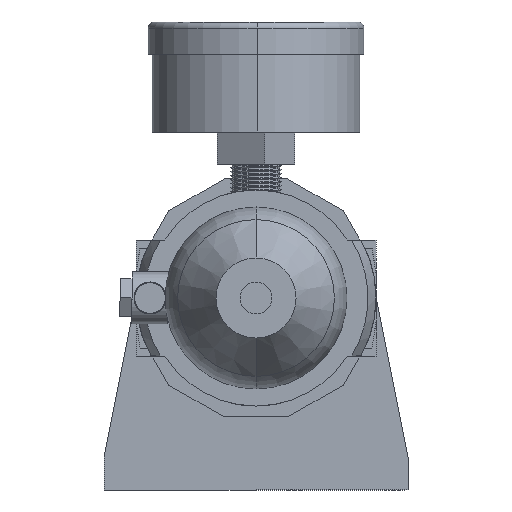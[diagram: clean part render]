
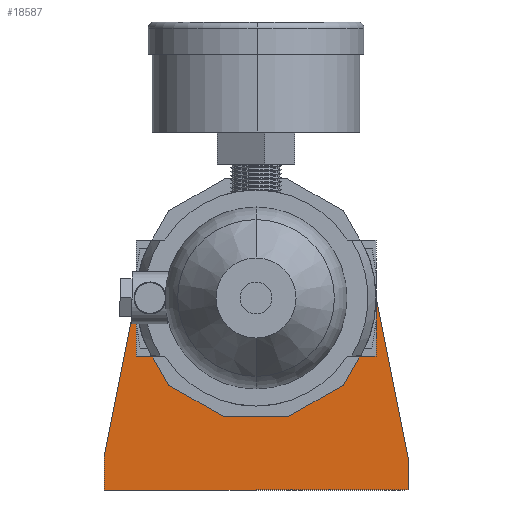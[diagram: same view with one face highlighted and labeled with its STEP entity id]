
A CAD part, front view. The second image highlights one B-rep face of the part: STEP entity #18587.
In plain terms, the highlighted planar face has unit normal (0, -1, 0).
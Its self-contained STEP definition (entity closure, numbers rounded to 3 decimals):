
#469 = EDGE_CURVE ( 'NONE', #13385, #9531, #16138, .T. ) ;
#1301 = CARTESIAN_POINT ( 'NONE',  ( 0., 0., 24. ) ) ;
#1371 = CARTESIAN_POINT ( 'NONE',  ( -38., 0., -48. ) ) ;
#1987 = VERTEX_POINT ( 'NONE', #1301 ) ;
#2318 = CIRCLE ( 'NONE', #18006, 29.5 ) ;
#2851 = LINE ( 'NONE', #25800, #13691 ) ;
#4112 = CARTESIAN_POINT ( 'NONE',  ( -38., 0., -40. ) ) ;
#4140 = DIRECTION ( 'NONE',  ( 0., 0., 1. ) ) ;
#4462 = CARTESIAN_POINT ( 'NONE',  ( 38., 0., -40. ) ) ;
#5284 = EDGE_CURVE ( 'NONE', #25527, #13385, #2318, .T. ) ;
#6067 = CARTESIAN_POINT ( 'NONE',  ( -28.937, 0., 5.734 ) ) ;
#6651 = LINE ( 'NONE', #23459, #25728 ) ;
#7009 = EDGE_LOOP ( 'NONE', ( #24156, #16441, #7554, #23540, #15143, #13535 ) ) ;
#7452 = EDGE_CURVE ( 'NONE', #7951, #25527, #9255, .T. ) ;
#7554 = ORIENTED_EDGE ( 'NONE', *, *, #14169, .F. ) ;
#7951 = VERTEX_POINT ( 'NONE', #4112 ) ;
#8927 = VERTEX_POINT ( 'NONE', #22195 ) ;
#9009 = FACE_OUTER_BOUND ( 'NONE', #7009, .T. ) ;
#9183 = AXIS2_PLACEMENT_3D ( 'NONE', #23402, #10785, #23038 ) ;
#9255 = LINE ( 'NONE', #12399, #19765 ) ;
#9531 = VERTEX_POINT ( 'NONE', #17417 ) ;
#10785 = DIRECTION ( 'NONE',  ( 0., 1., 0. ) ) ;
#11925 = VERTEX_POINT ( 'NONE', #25742 ) ;
#12309 = AXIS2_PLACEMENT_3D ( 'NONE', #14770, #18731, #4140 ) ;
#12399 = CARTESIAN_POINT ( 'NONE',  ( -38., 0., -40. ) ) ;
#12501 = VECTOR ( 'NONE', #19148, 1000. ) ;
#12768 = LINE ( 'NONE', #1371, #17697 ) ;
#13159 = DIRECTION ( 'NONE',  ( 0., 0., 1. ) ) ;
#13385 = VERTEX_POINT ( 'NONE', #18564 ) ;
#13535 = ORIENTED_EDGE ( 'NONE', *, *, #5284, .F. ) ;
#13691 = VECTOR ( 'NONE', #13159, 1000. ) ;
#14168 = DIRECTION ( 'NONE',  ( 0., 0., 1. ) ) ;
#14169 = EDGE_CURVE ( 'NONE', #16801, #8927, #12768, .T. ) ;
#14770 = CARTESIAN_POINT ( 'NONE',  ( 0., 0., 0. ) ) ;
#15143 = ORIENTED_EDGE ( 'NONE', *, *, #469, .F. ) ;
#15575 = FACE_BOUND ( 'NONE', #15663, .T. ) ;
#15663 = EDGE_LOOP ( 'NONE', ( #17837, #19701 ) ) ;
#16053 = EDGE_CURVE ( 'NONE', #1987, #11925, #22429, .T. ) ;
#16101 = DIRECTION ( 'NONE',  ( 0., 0., 1. ) ) ;
#16138 = LINE ( 'NONE', #4462, #12501 ) ;
#16441 = ORIENTED_EDGE ( 'NONE', *, *, #20748, .F. ) ;
#16801 = VERTEX_POINT ( 'NONE', #19368 ) ;
#17312 = AXIS2_PLACEMENT_3D ( 'NONE', #24342, #20182, #16101 ) ;
#17417 = CARTESIAN_POINT ( 'NONE',  ( 38., 0., -40. ) ) ;
#17697 = VECTOR ( 'NONE', #22596, 1000. ) ;
#17837 = ORIENTED_EDGE ( 'NONE', *, *, #16053, .T. ) ;
#18006 = AXIS2_PLACEMENT_3D ( 'NONE', #26814, #18293, #14168 ) ;
#18293 = DIRECTION ( 'NONE',  ( 0., 1., 0. ) ) ;
#18553 = DIRECTION ( 'NONE',  ( 0.194, 0., 0.981 ) ) ;
#18564 = CARTESIAN_POINT ( 'NONE',  ( 28.937, 0., 5.734 ) ) ;
#18587 = ADVANCED_FACE ( 'NONE', ( #15575, #9009 ), #22196, .F. ) ;
#18731 = DIRECTION ( 'NONE',  ( 0., 1., 0. ) ) ;
#19003 = DIRECTION ( 'NONE',  ( 0., 0., -1. ) ) ;
#19148 = DIRECTION ( 'NONE',  ( 0.194, 0., -0.981 ) ) ;
#19368 = CARTESIAN_POINT ( 'NONE',  ( 38., 0., -48. ) ) ;
#19701 = ORIENTED_EDGE ( 'NONE', *, *, #26349, .T. ) ;
#19765 = VECTOR ( 'NONE', #18553, 1000. ) ;
#20182 = DIRECTION ( 'NONE',  ( 0., 1., 0. ) ) ;
#20748 = EDGE_CURVE ( 'NONE', #8927, #7951, #2851, .T. ) ;
#22195 = CARTESIAN_POINT ( 'NONE',  ( -38., 0., -48. ) ) ;
#22196 = PLANE ( 'NONE',  #17312 ) ;
#22429 = CIRCLE ( 'NONE', #12309, 24. ) ;
#22596 = DIRECTION ( 'NONE',  ( -1., 0., 0. ) ) ;
#23038 = DIRECTION ( 'NONE',  ( 0., 0., 1. ) ) ;
#23402 = CARTESIAN_POINT ( 'NONE',  ( 0., 0., 0. ) ) ;
#23459 = CARTESIAN_POINT ( 'NONE',  ( 38., 0., -48. ) ) ;
#23540 = ORIENTED_EDGE ( 'NONE', *, *, #26549, .F. ) ;
#24156 = ORIENTED_EDGE ( 'NONE', *, *, #7452, .F. ) ;
#24342 = CARTESIAN_POINT ( 'NONE',  ( 0., 0., 0. ) ) ;
#25142 = CIRCLE ( 'NONE', #9183, 24. ) ;
#25527 = VERTEX_POINT ( 'NONE', #6067 ) ;
#25728 = VECTOR ( 'NONE', #19003, 1000. ) ;
#25742 = CARTESIAN_POINT ( 'NONE',  ( 0., 0., -24. ) ) ;
#25800 = CARTESIAN_POINT ( 'NONE',  ( -38., 0., -48. ) ) ;
#26349 = EDGE_CURVE ( 'NONE', #11925, #1987, #25142, .T. ) ;
#26549 = EDGE_CURVE ( 'NONE', #9531, #16801, #6651, .T. ) ;
#26814 = CARTESIAN_POINT ( 'NONE',  ( 0., 0., 0. ) ) ;
